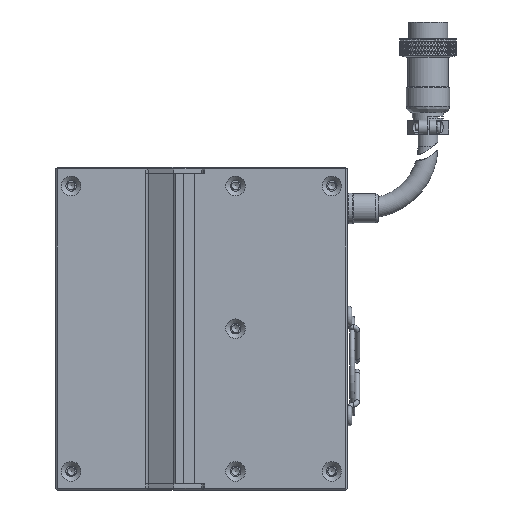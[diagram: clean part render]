
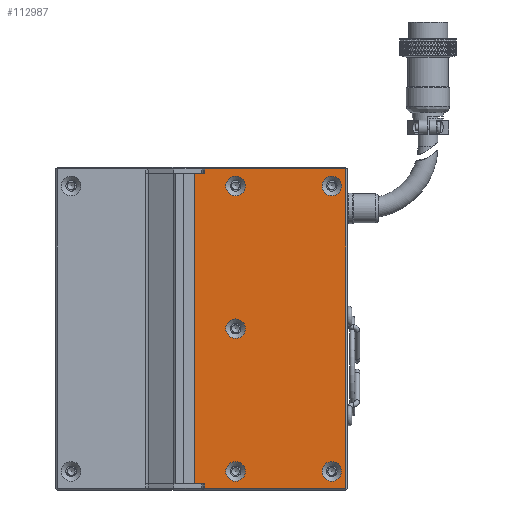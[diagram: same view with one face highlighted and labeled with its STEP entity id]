
A CAD part, left-side view. The second image highlights one B-rep face of the part: STEP entity #112987.
In plain terms, the highlighted planar face has unit normal (-1, 0, 0).
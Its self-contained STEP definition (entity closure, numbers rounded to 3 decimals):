
#73 = CARTESIAN_POINT ( 'NONE',  ( -24.998, -23.25, 50. ) ) ;
#1252 = FACE_BOUND ( 'NONE', #53270, .T. ) ;
#1893 = EDGE_CURVE ( 'NONE', #30912, #30912, #100608, .T. ) ;
#1943 = ORIENTED_EDGE ( 'NONE', *, *, #60181, .F. ) ;
#2348 = VERTEX_POINT ( 'NONE', #6275 ) ;
#4577 = EDGE_CURVE ( 'NONE', #65251, #65251, #7530, .T. ) ;
#4874 = AXIS2_PLACEMENT_3D ( 'NONE', #48229, #21416, #20645 ) ;
#6275 = CARTESIAN_POINT ( 'NONE',  ( -24.998, -26.5, 51.5 ) ) ;
#6360 = VERTEX_POINT ( 'NONE', #60420 ) ;
#6477 = VERTEX_POINT ( 'NONE', #73 ) ;
#6765 = CARTESIAN_POINT ( 'NONE',  ( -24.998, -36.5, 0. ) ) ;
#7530 = CIRCLE ( 'NONE', #63859, 3.15 ) ;
#7545 = DIRECTION ( 'NONE',  ( 0., 0., 1. ) ) ;
#8500 = LINE ( 'NONE', #33391, #111412 ) ;
#8749 = EDGE_CURVE ( 'NONE', #112188, #10657, #16964, .T. ) ;
#9368 = VERTEX_POINT ( 'NONE', #86539 ) ;
#10657 = VERTEX_POINT ( 'NONE', #94715 ) ;
#14442 = EDGE_CURVE ( 'NONE', #69841, #75575, #75288, .T. ) ;
#14538 = CARTESIAN_POINT ( 'NONE',  ( -24.998, -72.5, -50. ) ) ;
#15994 = CARTESIAN_POINT ( 'NONE',  ( -24.998, -67.5, -42.85 ) ) ;
#16237 = DIRECTION ( 'NONE',  ( 0., 1., 0. ) ) ;
#16330 = LINE ( 'NONE', #61406, #102044 ) ;
#16964 = LINE ( 'NONE', #116874, #108406 ) ;
#16976 = PLANE ( 'NONE',  #104272 ) ;
#16987 = AXIS2_PLACEMENT_3D ( 'NONE', #102578, #28317, #113677 ) ;
#17701 = DIRECTION ( 'NONE',  ( -1., 0., 0. ) ) ;
#19003 = CARTESIAN_POINT ( 'NONE',  ( -24.998, -26.5, 43. ) ) ;
#19239 = EDGE_LOOP ( 'NONE', ( #77623, #52067, #117145, #24366, #117420, #37796, #67339, #1943 ) ) ;
#19276 = CARTESIAN_POINT ( 'NONE',  ( -24.998, -36.5, 3.15 ) ) ;
#20645 = DIRECTION ( 'NONE',  ( 0., 0., 1. ) ) ;
#21416 = DIRECTION ( 'NONE',  ( -1., 0., 0. ) ) ;
#24000 = VECTOR ( 'NONE', #68506, 1000. ) ;
#24312 = VERTEX_POINT ( 'NONE', #50620 ) ;
#24366 = ORIENTED_EDGE ( 'NONE', *, *, #8749, .T. ) ;
#25727 = CARTESIAN_POINT ( 'NONE',  ( -24.998, -36.5, 46. ) ) ;
#27726 = DIRECTION ( 'NONE',  ( 0., 0., -1. ) ) ;
#28317 = DIRECTION ( 'NONE',  ( -1., 0., 0. ) ) ;
#30912 = VERTEX_POINT ( 'NONE', #19276 ) ;
#33043 = EDGE_CURVE ( 'NONE', #9368, #9368, #102191, .T. ) ;
#33391 = CARTESIAN_POINT ( 'NONE',  ( -24.998, -72.5, 51.5 ) ) ;
#35734 = CARTESIAN_POINT ( 'NONE',  ( -24.998, -72.5, 50. ) ) ;
#36572 = EDGE_LOOP ( 'NONE', ( #73102 ) ) ;
#36972 = FACE_BOUND ( 'NONE', #111519, .T. ) ;
#37796 = ORIENTED_EDGE ( 'NONE', *, *, #62259, .T. ) ;
#38212 = LINE ( 'NONE', #44766, #92504 ) ;
#38877 = VECTOR ( 'NONE', #101709, 1000. ) ;
#41722 = LINE ( 'NONE', #102504, #38877 ) ;
#44766 = CARTESIAN_POINT ( 'NONE',  ( -24.998, -72.5, 50. ) ) ;
#48229 = CARTESIAN_POINT ( 'NONE',  ( -24.998, -36.5, -46. ) ) ;
#48329 = LINE ( 'NONE', #14538, #24000 ) ;
#48794 = EDGE_CURVE ( 'NONE', #10657, #2348, #8500, .T. ) ;
#50620 = CARTESIAN_POINT ( 'NONE',  ( -24.998, -23.25, -50. ) ) ;
#50642 = DIRECTION ( 'NONE',  ( 0., 0., -1. ) ) ;
#50965 = VECTOR ( 'NONE', #50642, 1000. ) ;
#52067 = ORIENTED_EDGE ( 'NONE', *, *, #14442, .T. ) ;
#53270 = EDGE_LOOP ( 'NONE', ( #96436 ) ) ;
#54513 = VECTOR ( 'NONE', #66559, 1000. ) ;
#55341 = CIRCLE ( 'NONE', #4874, 3.15 ) ;
#55411 = ORIENTED_EDGE ( 'NONE', *, *, #33043, .F. ) ;
#60181 = EDGE_CURVE ( 'NONE', #24312, #6477, #41722, .T. ) ;
#60420 = CARTESIAN_POINT ( 'NONE',  ( -24.998, -36.5, -42.85 ) ) ;
#61406 = CARTESIAN_POINT ( 'NONE',  ( -24.998, -72.5, -51.5 ) ) ;
#62259 = EDGE_CURVE ( 'NONE', #2348, #70798, #97264, .T. ) ;
#62318 = CARTESIAN_POINT ( 'NONE',  ( -24.998, -26.5, -50. ) ) ;
#63859 = AXIS2_PLACEMENT_3D ( 'NONE', #95165, #104339, #113117 ) ;
#65251 = VERTEX_POINT ( 'NONE', #83202 ) ;
#66559 = DIRECTION ( 'NONE',  ( 0., 0., -1. ) ) ;
#67339 = ORIENTED_EDGE ( 'NONE', *, *, #100334, .F. ) ;
#68425 = FACE_BOUND ( 'NONE', #36572, .T. ) ;
#68506 = DIRECTION ( 'NONE',  ( 0., -1., 0. ) ) ;
#69841 = VERTEX_POINT ( 'NONE', #62318 ) ;
#70798 = VERTEX_POINT ( 'NONE', #95445 ) ;
#71549 = CARTESIAN_POINT ( 'NONE',  ( -24.998, -26.5, -51.5 ) ) ;
#73102 = ORIENTED_EDGE ( 'NONE', *, *, #4577, .F. ) ;
#73396 = ORIENTED_EDGE ( 'NONE', *, *, #100824, .F. ) ;
#75288 = LINE ( 'NONE', #76624, #50965 ) ;
#75575 = VERTEX_POINT ( 'NONE', #71549 ) ;
#75694 = EDGE_LOOP ( 'NONE', ( #104281 ) ) ;
#76624 = CARTESIAN_POINT ( 'NONE',  ( -24.998, -26.5, -43. ) ) ;
#77623 = ORIENTED_EDGE ( 'NONE', *, *, #110295, .T. ) ;
#79157 = DIRECTION ( 'NONE',  ( -1., 0., 0. ) ) ;
#81724 = DIRECTION ( 'NONE',  ( 1., 0., 0. ) ) ;
#82029 = AXIS2_PLACEMENT_3D ( 'NONE', #6765, #79157, #7545 ) ;
#83202 = CARTESIAN_POINT ( 'NONE',  ( -24.998, -67.5, 49.15 ) ) ;
#85570 = FACE_BOUND ( 'NONE', #75694, .T. ) ;
#86539 = CARTESIAN_POINT ( 'NONE',  ( -24.998, -36.5, 49.15 ) ) ;
#90747 = VERTEX_POINT ( 'NONE', #15994 ) ;
#91905 = EDGE_LOOP ( 'NONE', ( #55411 ) ) ;
#92504 = VECTOR ( 'NONE', #116951, 1000. ) ;
#92842 = CARTESIAN_POINT ( 'NONE',  ( -24.998, -72., -51.5 ) ) ;
#94715 = CARTESIAN_POINT ( 'NONE',  ( -24.998, -72., 51.5 ) ) ;
#95165 = CARTESIAN_POINT ( 'NONE',  ( -24.998, -67.5, 46. ) ) ;
#95445 = CARTESIAN_POINT ( 'NONE',  ( -24.998, -26.5, 50. ) ) ;
#96014 = EDGE_CURVE ( 'NONE', #90747, #90747, #118457, .T. ) ;
#96436 = ORIENTED_EDGE ( 'NONE', *, *, #96014, .F. ) ;
#97264 = LINE ( 'NONE', #19003, #54513 ) ;
#97748 = DIRECTION ( 'NONE',  ( 0., 0., 1. ) ) ;
#100334 = EDGE_CURVE ( 'NONE', #6477, #70798, #38212, .T. ) ;
#100608 = CIRCLE ( 'NONE', #82029, 3.15 ) ;
#100824 = EDGE_CURVE ( 'NONE', #6360, #6360, #55341, .T. ) ;
#101709 = DIRECTION ( 'NONE',  ( 0., 0., 1. ) ) ;
#102044 = VECTOR ( 'NONE', #115585, 1000. ) ;
#102191 = CIRCLE ( 'NONE', #105560, 3.15 ) ;
#102504 = CARTESIAN_POINT ( 'NONE',  ( -24.998, -23.25, -50. ) ) ;
#102578 = CARTESIAN_POINT ( 'NONE',  ( -24.998, -67.5, -46. ) ) ;
#104105 = FACE_OUTER_BOUND ( 'NONE', #19239, .T. ) ;
#104272 = AXIS2_PLACEMENT_3D ( 'NONE', #35734, #81724, #27726 ) ;
#104281 = ORIENTED_EDGE ( 'NONE', *, *, #1893, .F. ) ;
#104339 = DIRECTION ( 'NONE',  ( -1., 0., 0. ) ) ;
#105560 = AXIS2_PLACEMENT_3D ( 'NONE', #25727, #17701, #107958 ) ;
#106434 = EDGE_CURVE ( 'NONE', #75575, #112188, #16330, .T. ) ;
#107958 = DIRECTION ( 'NONE',  ( 0., 0., 1. ) ) ;
#108406 = VECTOR ( 'NONE', #97748, 1000. ) ;
#110295 = EDGE_CURVE ( 'NONE', #24312, #69841, #48329, .T. ) ;
#111412 = VECTOR ( 'NONE', #16237, 1000. ) ;
#111519 = EDGE_LOOP ( 'NONE', ( #73396 ) ) ;
#112188 = VERTEX_POINT ( 'NONE', #92842 ) ;
#112694 = FACE_BOUND ( 'NONE', #91905, .T. ) ;
#112987 = ADVANCED_FACE ( 'NONE', ( #1252, #36972, #112694, #68425, #85570, #104105 ), #16976, .F. ) ;
#113117 = DIRECTION ( 'NONE',  ( 0., 0., 1. ) ) ;
#113677 = DIRECTION ( 'NONE',  ( 0., 0., 1. ) ) ;
#115585 = DIRECTION ( 'NONE',  ( 0., -1., 0. ) ) ;
#116874 = CARTESIAN_POINT ( 'NONE',  ( -24.998, -72., 50. ) ) ;
#116951 = DIRECTION ( 'NONE',  ( 0., -1., 0. ) ) ;
#117145 = ORIENTED_EDGE ( 'NONE', *, *, #106434, .T. ) ;
#117420 = ORIENTED_EDGE ( 'NONE', *, *, #48794, .T. ) ;
#118457 = CIRCLE ( 'NONE', #16987, 3.15 ) ;
